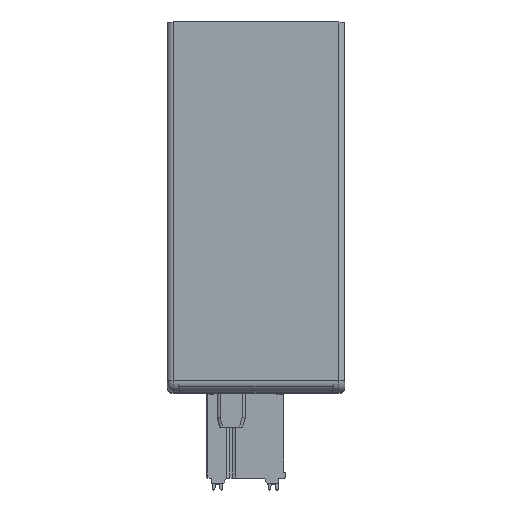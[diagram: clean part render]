
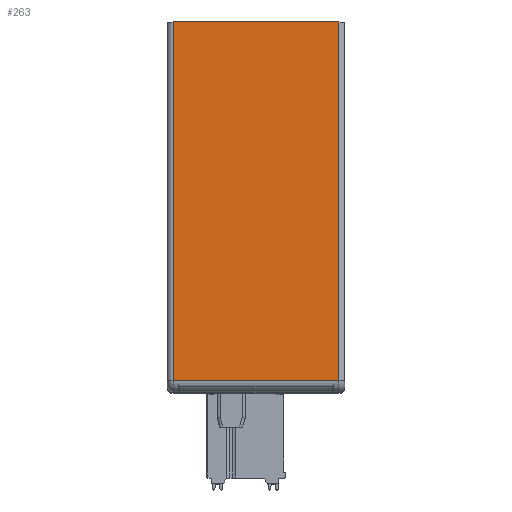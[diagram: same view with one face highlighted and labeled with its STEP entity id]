
A CAD part, top view. The second image highlights one B-rep face of the part: STEP entity #263.
In plain terms, the highlighted planar face has unit normal (0, 0, 1).
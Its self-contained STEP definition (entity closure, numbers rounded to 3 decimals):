
#263=ADVANCED_FACE('',(#2900),#2899,.F.);
#2899=PLANE('',#7897);
#2900=FACE_OUTER_BOUND('',#7898,.T.);
#7894=CARTESIAN_POINT('',(31.8,-72.15,62.2));
#7895=DIRECTION('',(0.,0.,-1.));
#7896=DIRECTION('',(-1.,0.,0.));
#7897=AXIS2_PLACEMENT_3D('',#7894,#7895,#7896);
#7898=EDGE_LOOP('',(#11629,#11630,#11631,#11632));
#11629=ORIENTED_EDGE('',*,*,#14384,.T.);
#11630=ORIENTED_EDGE('',*,*,#14382,.F.);
#11631=ORIENTED_EDGE('',*,*,#14385,.T.);
#11632=ORIENTED_EDGE('',*,*,#14386,.T.);
#14382=EDGE_CURVE('',#20766,#20773,#20774,.T.);
#14384=EDGE_CURVE('',#20786,#20773,#20787,.T.);
#14385=EDGE_CURVE('',#20766,#20793,#20794,.T.);
#14386=EDGE_CURVE('',#20793,#20786,#20800,.T.);
#20766=VERTEX_POINT('',#28965);
#20773=VERTEX_POINT('',#28970);
#20774=LINE('',#28971,#28972);
#20786=VERTEX_POINT('',#28978);
#20787=LINE('',#28979,#28980);
#20793=VERTEX_POINT('',#28982);
#20794=LINE('',#28983,#28984);
#20800=LINE('',#28986,#28987);
#28965=CARTESIAN_POINT('',(29.,-66.1,62.2));
#28970=CARTESIAN_POINT('',(1.,-66.1,62.2));
#28971=CARTESIAN_POINT('',(29.,-66.1,62.2));
#28972=VECTOR('',#28973,28.);
#28973=DIRECTION('',(-1.,0.,0.));
#28978=CARTESIAN_POINT('',(1.,-5.6,62.2));
#28979=CARTESIAN_POINT('',(1.,-5.6,62.2));
#28980=VECTOR('',#28981,60.5);
#28981=DIRECTION('',(0.,-1.,0.));
#28982=CARTESIAN_POINT('',(29.,-5.6,62.2));
#28983=CARTESIAN_POINT('',(29.,-66.1,62.2));
#28984=VECTOR('',#28985,60.5);
#28985=DIRECTION('',(0.,1.,0.));
#28986=CARTESIAN_POINT('',(29.,-5.6,62.2));
#28987=VECTOR('',#28988,28.);
#28988=DIRECTION('',(-1.,0.,0.));
